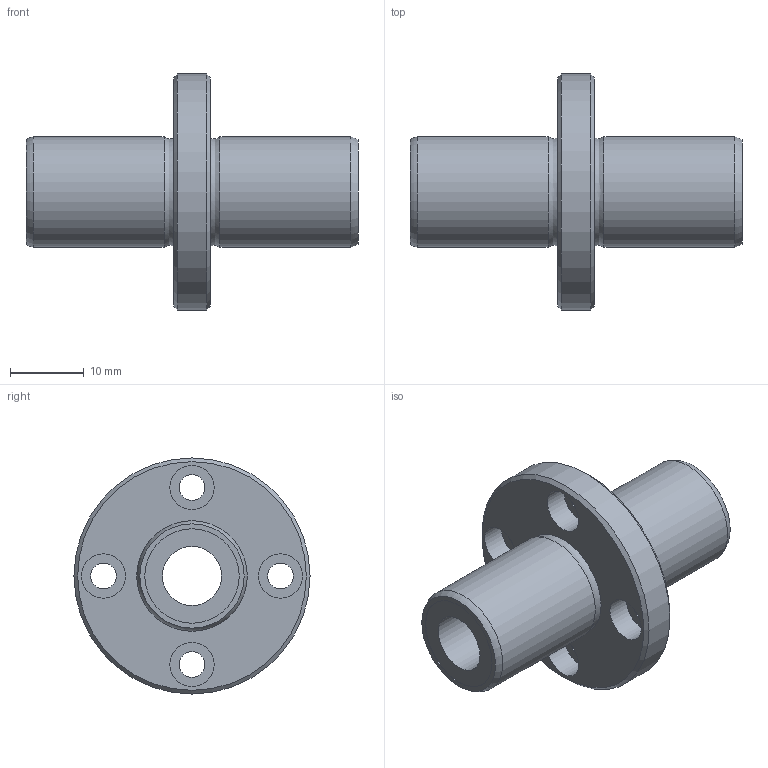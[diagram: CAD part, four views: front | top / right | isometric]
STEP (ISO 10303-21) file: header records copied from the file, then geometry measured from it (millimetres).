
FILE_DESCRIPTION((''),'2;1');
FILE_NAME('D:\製品 (図面)\カタログ用3D\リニアベアリング関連\STEP形式\LFDC\LFDC8.stp','2010-06-03T09:26:30',('Tsuchiya'),(''),'Autodesk Inventor 10','Autodesk Inventor 10','');
FILE_SCHEMA(('AUTOMOTIVE_DESIGN { 1 0 10303 214 1 1 1 1 }'));
Length unit declared in the file: millimetre
Products named in the file (1): LFDC8
Bounding box: 45 x 32 x 32 mm (x, y, z)
Volume: 8311.7 mm3; surface area: 5202.5 mm2
Topology: 1 solids, 1 shells, 30 faces, 54 edges, 34 vertices
Faces by surface type: cylinder 14, plane 10, cone 2, torus 2, bspline 2
Full cylindrical faces by diameter (mm): 3.5 x4, 6 x4, 8 x1, 12.8 x2, 15 x2, 32 x1
Entity records: 803 total; most frequent: CARTESIAN_POINT 223, DIRECTION 126, ORIENTED_EDGE 68, EDGE_LOOP 68, AXIS2_PLACEMENT_3D 63, FACE_BOUND 38, VERTEX_POINT 34, CIRCLE 34
